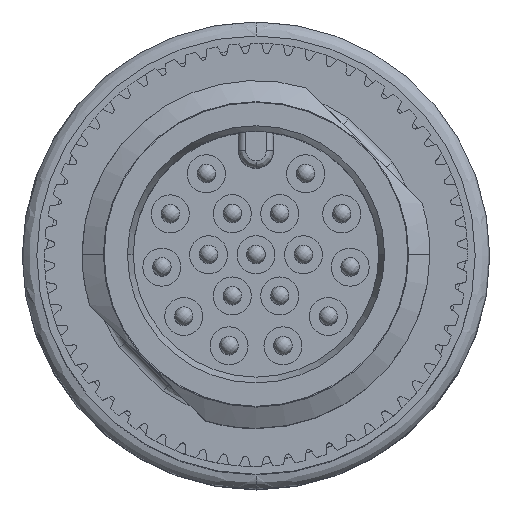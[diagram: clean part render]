
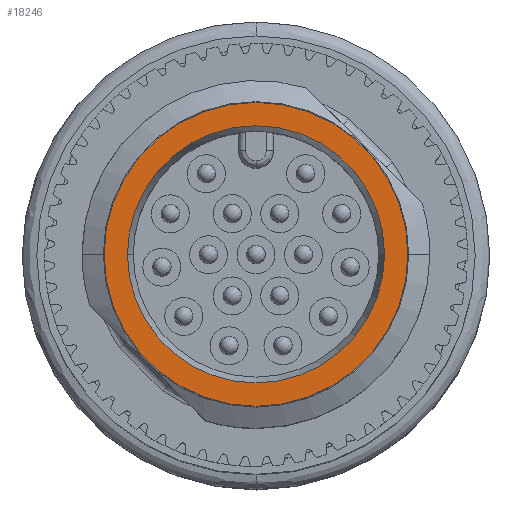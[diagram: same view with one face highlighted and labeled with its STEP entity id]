
A CAD part, top view. The second image highlights one B-rep face of the part: STEP entity #18246.
In plain terms, the highlighted planar face has unit normal (0, 0, 1).
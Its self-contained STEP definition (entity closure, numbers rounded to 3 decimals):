
#424 = CARTESIAN_POINT ( 'NONE',  ( 0., 0., 4.15 ) ) ;
#579 = CARTESIAN_POINT ( 'NONE',  ( 0., 0., 4.15 ) ) ;
#1647 = CARTESIAN_POINT ( 'NONE',  ( 4.4, 0., 4.15 ) ) ;
#1894 = ORIENTED_EDGE ( 'NONE', *, *, #6662, .T. ) ;
#1937 = AXIS2_PLACEMENT_3D ( 'NONE', #579, #11722, #4882 ) ;
#1993 = EDGE_CURVE ( 'NONE', #16013, #13072, #15715, .T. ) ;
#1995 = ORIENTED_EDGE ( 'NONE', *, *, #10126, .T. ) ;
#2298 = CIRCLE ( 'NONE', #6303, 4.4 ) ;
#2830 = DIRECTION ( 'NONE',  ( 0., 0., -1. ) ) ;
#3219 = AXIS2_PLACEMENT_3D ( 'NONE', #424, #19567, #7371 ) ;
#3724 = DIRECTION ( 'NONE',  ( 0., 0., -1. ) ) ;
#3905 = ORIENTED_EDGE ( 'NONE', *, *, #11780, .T. ) ;
#4869 = CARTESIAN_POINT ( 'NONE',  ( 0., 0., 4.15 ) ) ;
#4882 = DIRECTION ( 'NONE',  ( -1., 0., 0. ) ) ;
#5113 = AXIS2_PLACEMENT_3D ( 'NONE', #21629, #18284, #20001 ) ;
#5904 = AXIS2_PLACEMENT_3D ( 'NONE', #13883, #3724, #8857 ) ;
#6303 = AXIS2_PLACEMENT_3D ( 'NONE', #4869, #2830, #20524 ) ;
#6662 = EDGE_CURVE ( 'NONE', #15505, #21672, #17580, .T. ) ;
#7371 = DIRECTION ( 'NONE',  ( -1., 0., 0. ) ) ;
#7686 = FACE_BOUND ( 'NONE', #19090, .T. ) ;
#8108 = CARTESIAN_POINT ( 'NONE',  ( -5.2, 0., 4.15 ) ) ;
#8857 = DIRECTION ( 'NONE',  ( 1., 0., 0. ) ) ;
#10126 = EDGE_CURVE ( 'NONE', #13072, #16013, #2298, .T. ) ;
#11722 = DIRECTION ( 'NONE',  ( 0., 0., 1. ) ) ;
#11780 = EDGE_CURVE ( 'NONE', #21672, #15505, #21082, .T. ) ;
#13072 = VERTEX_POINT ( 'NONE', #1647 ) ;
#13340 = CARTESIAN_POINT ( 'NONE',  ( 5.2, 0., 4.15 ) ) ;
#13883 = CARTESIAN_POINT ( 'NONE',  ( 0., 0., 4.15 ) ) ;
#13966 = CARTESIAN_POINT ( 'NONE',  ( -4.4, 0., 4.15 ) ) ;
#14478 = ORIENTED_EDGE ( 'NONE', *, *, #1993, .T. ) ;
#14974 = FACE_OUTER_BOUND ( 'NONE', #16870, .T. ) ;
#15505 = VERTEX_POINT ( 'NONE', #13340 ) ;
#15715 = CIRCLE ( 'NONE', #5904, 4.4 ) ;
#16013 = VERTEX_POINT ( 'NONE', #13966 ) ;
#16786 = PLANE ( 'NONE',  #5113 ) ;
#16870 = EDGE_LOOP ( 'NONE', ( #3905, #1894 ) ) ;
#17580 = CIRCLE ( 'NONE', #1937, 5.2 ) ;
#18246 = ADVANCED_FACE ( 'NONE', ( #7686, #14974 ), #16786, .T. ) ;
#18284 = DIRECTION ( 'NONE',  ( 0., 0., 1. ) ) ;
#19090 = EDGE_LOOP ( 'NONE', ( #1995, #14478 ) ) ;
#19567 = DIRECTION ( 'NONE',  ( 0., 0., 1. ) ) ;
#20001 = DIRECTION ( 'NONE',  ( 1., 0., 0. ) ) ;
#20524 = DIRECTION ( 'NONE',  ( 1., 0., 0. ) ) ;
#21082 = CIRCLE ( 'NONE', #3219, 5.2 ) ;
#21629 = CARTESIAN_POINT ( 'NONE',  ( -2.97, 2.97, 4.15 ) ) ;
#21672 = VERTEX_POINT ( 'NONE', #8108 ) ;
